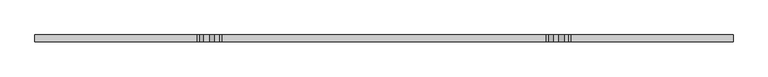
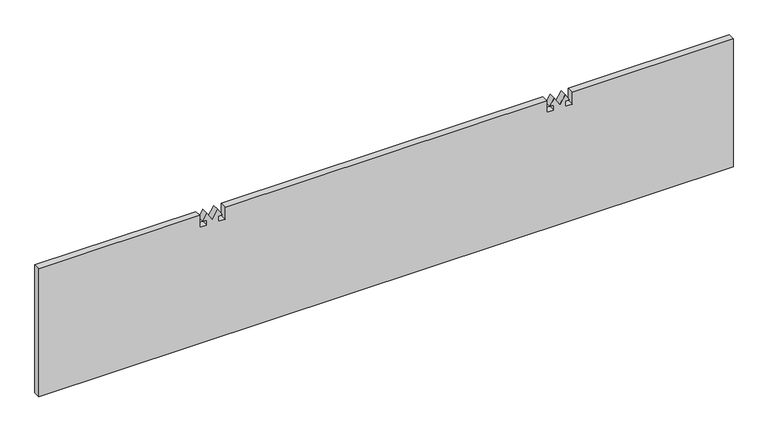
"""IFC4 building model written with IfcOpenShell, lengths in millimetres: proxy geometry, instalación_stratus 2.3dm."""

import ifcopenshell
import ifcopenshell.guid

model = None  # the IFC model being written
_history = None  # IfcOwnerHistory: only IFC2X3 demands one
_inside = {}  # id of a spatial element -> (the spatial element, [elements in it])
_under = {}  # id of a project, library or spatial element -> (it, [spatial elements below it])
_declared = {}  # id of a project -> (the project, [libraries it declares])
_typed = {}  # id of a type object -> (the type object, [elements of that type])
_made_of = {}  # id of a material, layer set ... -> (it, [elements and type objects made of it])


def new_model(schema):
    """Start an empty IFC model of exactly this schema.

    Asked for "IFC4X3", IfcOpenShell would pick the latest addendum, in which some entities
    have other attributes; the version numbers below select the first issue.
    IFC2X3 requires an IfcOwnerHistory on every rooted entity: one is made here for all.
    """
    global model, _history
    if schema == "IFC4X3":
        model = ifcopenshell.file(schema_version=(4, 3, 0, 0))
    else:
        model = ifcopenshell.file(schema=schema)
    _inside.clear()
    _under.clear()
    _declared.clear()
    _typed.clear()
    _made_of.clear()
    _history = None
    if model.schema == "IFC2X3":
        org = make("IfcOrganization", Name="unknown")
        user = make(
            "IfcPersonAndOrganization",
            ThePerson=make("IfcPerson", FamilyName="unknown"),
            TheOrganization=org,
        )
        app = make(
            "IfcApplication",
            ApplicationDeveloper=org,
            Version="unknown",
            ApplicationFullName="unknown",
            ApplicationIdentifier="unknown",
        )
        _history = make(
            "IfcOwnerHistory",
            OwningUser=user,
            OwningApplication=app,
            ChangeAction="ADDED",
            CreationDate=0,
        )
    return model


def make(cls, **values):
    """One entity of the class cls with the attributes given. An attribute that is None is left unset."""
    return model.create_entity(
        cls, **{name: value for name, value in values.items() if value is not None}
    )


def rooted(cls, **values):
    """An entity with a GlobalId (a new one), such as an element, a storey or a relation."""
    return make(cls, GlobalId=ifcopenshell.guid.new(), OwnerHistory=_history, **values)


def si_unit(unit_type, name, prefix=None):
    """IfcSIUnit, for example si_unit("LENGTHUNIT", "METRE", prefix="MILLI")."""
    return make("IfcSIUnit", UnitType=unit_type, Prefix=prefix, Name=name)


def assignment(units):
    """IfcUnitAssignment: the units of a project."""
    return None if units is None else make("IfcUnitAssignment", Units=units)


def point(xyz):
    """IfcCartesianPoint."""
    return None if xyz is None else make("IfcCartesianPoint", Coordinates=xyz)


def direction(xyz):
    """IfcDirection."""
    return None if xyz is None else make("IfcDirection", DirectionRatios=xyz)


def frame(location, z_axis=None, x_axis=None):
    """IfcAxis2Placement3D, a coordinate frame: its origin and axes. An axis left out is left unset."""
    return make(
        "IfcAxis2Placement3D",
        Location=point(location),
        Axis=direction(z_axis),
        RefDirection=direction(x_axis),
    )


def origin():
    """The frame at (0, 0, 0) with its axes left unset."""
    return frame((0.0, 0.0, 0.0))


def place(relative_to, where):
    """IfcLocalPlacement: puts the frame where relative to a parent placement (None: the world)."""
    return make(
        "IfcLocalPlacement", PlacementRelTo=relative_to, RelativePlacement=where
    )


def context(
    kind, dimensions, precision=None, world=None, true_north=None, identifier=None
):
    """IfcGeometricRepresentationContext, for example the 3D "Model" context."""
    return make(
        "IfcGeometricRepresentationContext",
        ContextIdentifier=identifier,
        ContextType=kind,
        CoordinateSpaceDimension=dimensions,
        Precision=precision,
        WorldCoordinateSystem=world,
        TrueNorth=true_north,
    )


def project(units=None, contexts=None):
    """IfcProject with its units and contexts."""
    return rooted(
        "IfcProject",
        Name="project",
        RepresentationContexts=contexts,
        UnitsInContext=assignment(units),
    )


def spatial(cls, under=None, at=None, **own):
    """A site, building, storey or space (cls), placed at a placement, below another one or the project."""
    s = rooted(cls, ObjectPlacement=at, **own)
    if under is not None:
        _under.setdefault(under.id(), (under, []))[1].append(s)
    return s


def polyline(points):
    """IfcPolyline through the points."""
    return make("IfcPolyline", Points=[point(p) for p in points])


def outline(outer, holes=None, kind="AREA"):
    """IfcArbitraryClosedProfileDef: a profile drawn as a closed curve; with holes, ...WithVoids."""
    if holes is None:
        return make("IfcArbitraryClosedProfileDef", ProfileType=kind, OuterCurve=outer)
    return make(
        "IfcArbitraryProfileDefWithVoids",
        ProfileType=kind,
        OuterCurve=outer,
        InnerCurves=holes,
    )


def extrude(swept, where, along, depth):
    """IfcExtrudedAreaSolid: the profile swept, set in the frame where, extruded along a direction by depth."""
    return make(
        "IfcExtrudedAreaSolid",
        SweptArea=swept,
        Position=where,
        ExtrudedDirection=direction(along),
        Depth=depth,
    )


def shape(context_of_items, identifier, shape_type, items):
    """IfcShapeRepresentation: the items that make up one representation, for example the "Body"."""
    return make(
        "IfcShapeRepresentation",
        ContextOfItems=context_of_items,
        RepresentationIdentifier=identifier,
        RepresentationType=shape_type,
        Items=items,
    )


def source(mapping_origin, context_of_items, identifier, shape_type, items):
    """IfcRepresentationMap: a shape defined once, which mapped items show again and again."""
    return make(
        "IfcRepresentationMap",
        MappingOrigin=mapping_origin,
        MappedRepresentation=shape(context_of_items, identifier, shape_type, items),
    )


def transform(
    local_origin,
    x_axis=None,
    y_axis=None,
    z_axis=None,
    scale=None,
    scale2=None,
    scale3=None,
    uniform=True,
):
    """IfcCartesianTransformationOperator3D, or its non-uniform kind. x_axis, y_axis, z_axis: its Axis1, 2, 3."""
    if uniform:
        return make(
            "IfcCartesianTransformationOperator3D",
            Axis1=direction(x_axis),
            Axis2=direction(y_axis),
            LocalOrigin=point(local_origin),
            Scale=scale,
            Axis3=direction(z_axis),
        )
    return make(
        "IfcCartesianTransformationOperator3DnonUniform",
        Axis1=direction(x_axis),
        Axis2=direction(y_axis),
        LocalOrigin=point(local_origin),
        Scale=scale,
        Axis3=direction(z_axis),
        Scale2=scale2,
        Scale3=scale3,
    )


def mapped(mapping_source, mapping_target):
    """IfcMappedItem: shows the shape of a source again, moved by a transform."""
    return make(
        "IfcMappedItem", MappingSource=mapping_source, MappingTarget=mapping_target
    )


def made_of(thing, what):
    """Note that an element or type object is made of a material, layer set ...; save() writes the relation."""
    if what is not None:
        _made_of.setdefault(what.id(), (what, []))[1].append(thing)
    return thing


def element(
    cls,
    number,
    at=None,
    inside=None,
    cuts=None,
    type_object=None,
    material=None,
    context=None,
    identifier="Body",
    shape_type=None,
    held_by="IfcProductDefinitionShape",
    body=None,
    shapes=None,
    **own,
):
    """One element of the class cls, such as IfcWall. Its Tag is "e" and its number.

    at: its placement. inside: the storey or other place that contains it. cuts: it is an
    opening in that element (IfcRelVoidsElement). A single representation is given by context,
    identifier, shape_type and body (its items); several are given by shapes. held_by: the class
    of the entity that holds the representations. save() writes the other relations.
    """
    e = rooted(cls, Tag="e%d" % number, ObjectPlacement=at, **own)
    if body is not None:
        shapes = [shape(context, identifier, shape_type, body)]
    if shapes is not None:
        e.Representation = make(held_by, Representations=shapes)
    if inside is not None:
        _inside.setdefault(inside.id(), (inside, []))[1].append(e)
    if cuts is not None:
        rooted(
            "IfcRelVoidsElement", RelatingBuildingElement=cuts, RelatedOpeningElement=e
        )
    if type_object is not None:
        _typed.setdefault(type_object.id(), (type_object, []))[1].append(e)
    return made_of(e, material)


def aggregate(whole, parts):
    """IfcRelAggregates: a whole, such as a stair, and the parts it consists of."""
    return rooted("IfcRelAggregates", RelatingObject=whole, RelatedObjects=parts)


def save(model, path):
    """Write the relations noted so far, then the file.

    IfcRelAggregates (storeys below a building ...), IfcRelContainedInSpatialStructure (elements
    in a storey), IfcRelDefinesByType, IfcRelAssociatesMaterial and IfcRelDeclares: one each for
    every whole, place, type object, material and project.
    """
    for whole, parts in _under.values():
        aggregate(whole, parts)
    for where, things in _inside.values():
        rooted(
            "IfcRelContainedInSpatialStructure",
            RelatedElements=things,
            RelatingStructure=where,
        )
    for kind, things in _typed.values():
        rooted("IfcRelDefinesByType", RelatedObjects=things, RelatingType=kind)
    for what, things in _made_of.values():
        rooted("IfcRelAssociatesMaterial", RelatedObjects=things, RelatingMaterial=what)
    for by, libraries in _declared.values():
        rooted("IfcRelDeclares", RelatingContext=by, RelatedDefinitions=libraries)
    model.write(path)


def generic_models_5dd93ef4(model_context):
    return source(origin(), model_context, "Body", "SweptSolid", [
        extrude(outline(polyline([(-42.5638653, 291.811158), (-42.5638653, 279.553481), (-20.65, 279.553481), (-20.65, 0.0), (-255.6, 0.0), (-255.6, 1206.5), (-20.65, 1206.5), (-20.65, 926.946519), (-42.5638653, 926.946519), (-42.5638653, 914.688842), (-33.2622966, 914.688842), (-33.2622966, 922.0592541), (-20.65, 914.42236), (-36.4174225, 904.875), (-20.65, 895.32764), (-33.2622966, 887.6907459), (-33.2622966, 895.061158), (-42.5638653, 895.061158), (-42.5638653, 882.803481), (-20.65, 882.803481), (-20.65, 323.696519), (-42.5638653, 323.696519), (-42.5638653, 311.438842), (-33.2622966, 311.438842), (-33.2622966, 318.8092541), (-20.65, 311.17236), (-36.4174225, 301.625), (-20.65, 292.07764), (-33.2622966, 284.4407459), (-33.2622966, 291.811158), (-42.5638653, 291.811158)])), frame((0.0, 205.9510804, 0.0), z_axis=(0.0, 1.0, 0.0), x_axis=(0.0, 0.0, 1.0)), (0.0, 0.0, 1.0), 12.0),
    ])


if __name__ == "__main__":
    model = new_model("IFC4")
    model_context = context("Model", 3, world=origin())
    ifc_project = project(units=[si_unit("LENGTHUNIT", "METRE", prefix="MILLI")], contexts=[model_context])
    site = spatial("IfcSite", under=ifc_project)
    building = spatial("IfcBuilding", under=site)
    placement = place(None, origin())
    generic_models_shape = generic_models_5dd93ef4(model_context)
    element("IfcBuildingElementProxy", 1, Name="instalación_stratus 2.3dm", ObjectType="instalación_stratus 2.3dm", at=placement, inside=building, context=model_context, shape_type="MappedRepresentation", body=[
        mapped(generic_models_shape, transform((0.0, 0.0, 0.0), x_axis=(1.0, 0.0, 0.0), y_axis=(0.0, 1.0, 0.0), z_axis=(0.0, 0.0, 1.0))),
    ])
    save(model, "model.ifc")
